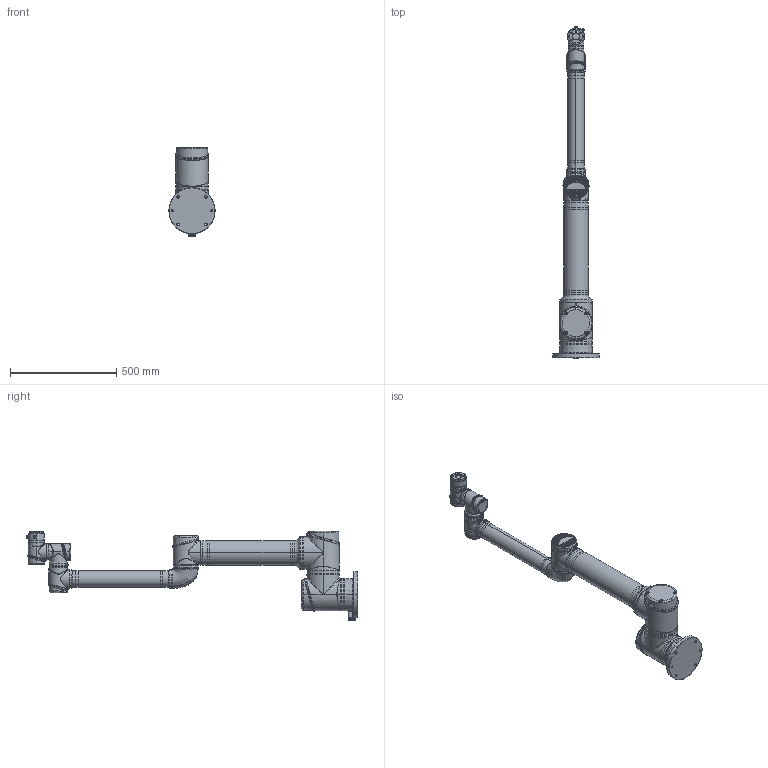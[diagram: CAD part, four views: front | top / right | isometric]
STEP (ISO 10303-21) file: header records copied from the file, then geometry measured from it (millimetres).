
FILE_DESCRIPTION (( 'STEP AP214' ), '1' );
FILE_NAME ('i10-Íâ·¢Ä£ÐÍ.STEP', '2026-04-22T02:38:17', ( '' ), ( '' ), 'SwSTEP 2.0', 'SolidWorks 2024', '' );
FILE_SCHEMA (( 'AUTOMOTIVE_DESIGN' ));
Length unit declared in the file: millimetre
Products named in the file (8): i10-ID6; i10-外发模型; i10-小臂; i10-ID1; i10-ID5; i5H-末端; i10-大臂; i10-底座
Assembly tree (7 placements, depth 2):
  i10-外发模型
    i10-底座
    i10-ID1
    i10-大臂
    i10-小臂
    i10-ID5
    i10-ID6
    i5H-末端
Bounding box: 217.97 x 1562 x 419.8 mm (x, y, z)
Volume: 22336767 mm3; surface area: 1139489.7 mm2
Topology: 11 solids, 23 shells, 2790 faces, 6675 edges, 4068 vertices
Faces by surface type: plane 1059, cylinder 707, bspline 585, cone 323, torus 106, sphere 10
Entity records: 176376 total; most frequent: CARTESIAN_POINT 88974, ORIENTED_EDGE 13236, DIRECTION 11883, EDGE_CURVE 6620, AXIS2_PLACEMENT_3D 4551, VERTEX_POINT 4067, EDGE_LOOP 3003, ADVANCED_FACE 2790
